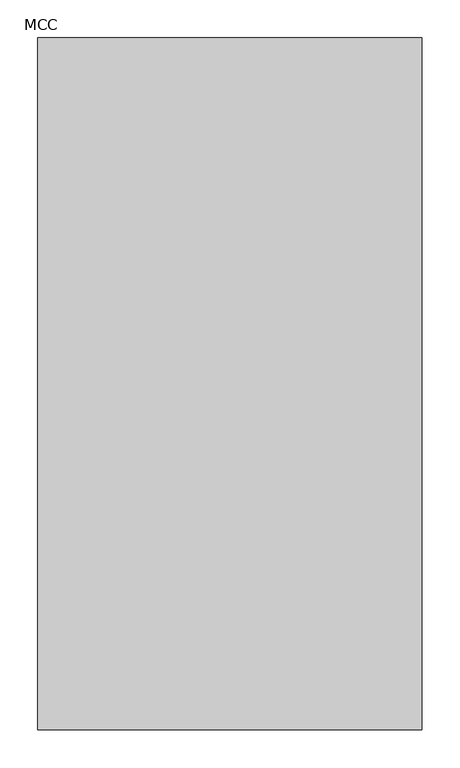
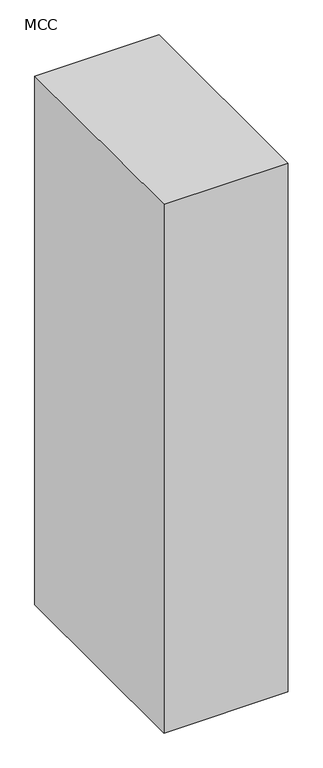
"""IFC4 building model written with IfcOpenShell, lengths in millimetres: proxy geometry, Modular Motor Control Centers - Power Monitoring Section : MCC."""

from ifc_helpers import new_model, si_unit, origin, origin_with_axes, place, context, project, spatial, polyline, outline, extrude, source, transform, mapped, element, save


def mcc_2f4dff24(model_context):
    return source(origin(), model_context, "Body", "SweptSolid", [
        extrude(outline(polyline([(254.0, 0.0), (254.0, -914.4), (-254.0, -914.4), (-254.0, 0.0), (254.0, 0.0)])), origin_with_axes(), (0.0, 0.0, 1.0), 2286.0),
    ])


if __name__ == "__main__":
    model = new_model("IFC4")
    model_context = context("Model", 3, world=origin())
    ifc_project = project(units=[si_unit("LENGTHUNIT", "METRE", prefix="MILLI")], contexts=[model_context])
    site = spatial("IfcSite", under=ifc_project)
    building = spatial("IfcBuilding", under=site)
    placement = place(None, origin())
    mcc_shape = mcc_2f4dff24(model_context)
    element("IfcBuildingElementProxy", 1, Name="Modular Motor Control Centers - Power Monitoring Section : MCC", ObjectType="Modular Motor Control Centers - Power Monitoring Section : MCC", at=placement, inside=building, context=model_context, shape_type="MappedRepresentation", body=[
        mapped(mcc_shape, transform((0.0, 0.0, 0.0), x_axis=(1.0, 0.0, 0.0), y_axis=(0.0, 1.0, 0.0), z_axis=(0.0, 0.0, 1.0))),
    ])
    save(model, "model.ifc")
